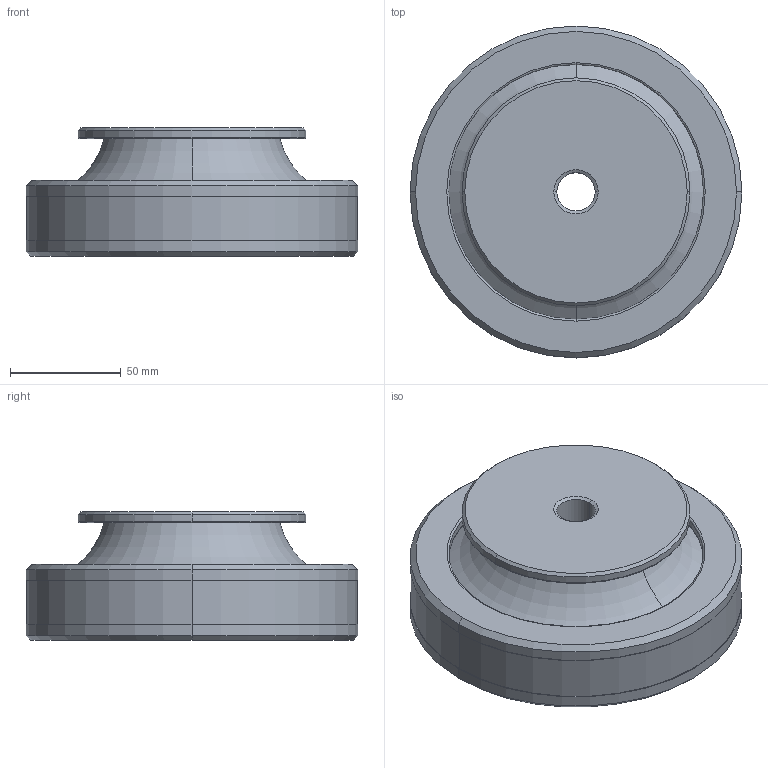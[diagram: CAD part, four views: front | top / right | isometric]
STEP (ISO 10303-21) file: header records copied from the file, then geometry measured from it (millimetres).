
FILE_DESCRIPTION(('STEP AP214'),'1');
FILE_NAME('U:/Inhalte (Daten)/Content neue Seite/CAD Files/EluFlex_150_SB.stp','2014-08-27T14:35:29',(' '),(' '),'Spatial InterOp 3D',' ',' ');
FILE_SCHEMA(('automotive_design'));
Length unit declared in the file: millimetre
Products named in the file (1): 1
Bounding box: 150 x 150 x 58 mm (x, y, z)
Volume: 634225.5 mm3; surface area: 73775.4 mm2
Topology: 1 solids, 3 shells, 64 faces, 154 edges, 98 vertices
Faces by surface type: torus 24, cylinder 16, cone 16, plane 8
Entity records: 1953 total; most frequent: DIRECTION 408, CARTESIAN_POINT 317, ORIENTED_EDGE 308, AXIS2_PLACEMENT_3D 189, EDGE_CURVE 154, CIRCLE 124, VERTEX_POINT 98, EDGE_LOOP 72
